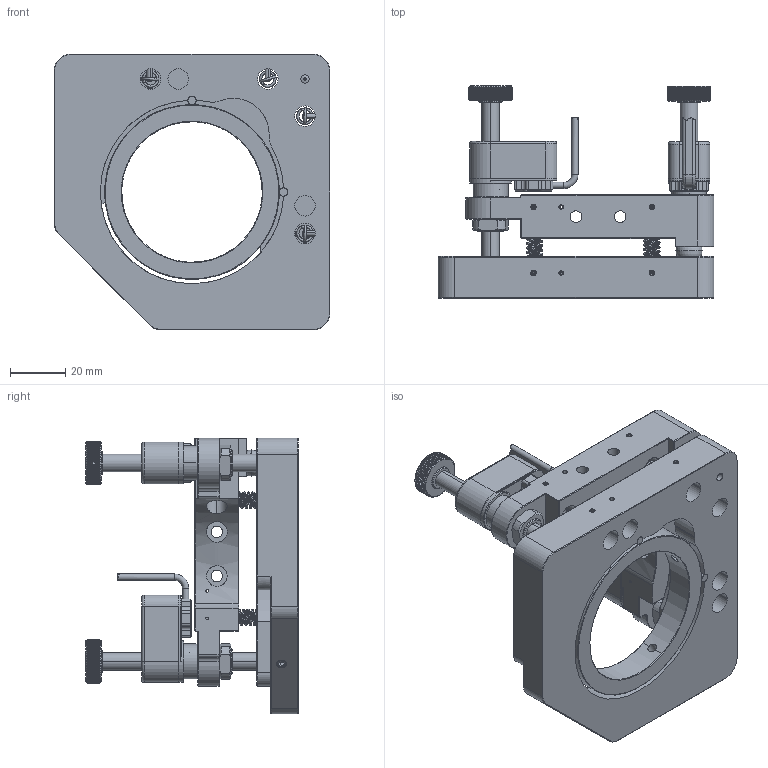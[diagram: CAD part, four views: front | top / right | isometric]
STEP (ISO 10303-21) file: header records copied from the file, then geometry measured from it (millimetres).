
FILE_DESCRIPTION (( 'STEP AP214' ), '1' );
FILE_NAME ('ZT60噩殤蚾饜极樓謂.STEP', '2024-03-21T02:35:16', ( 'daohangxitong.com' ), ( 'daohangxitong.com' ), 'SwSTEP 2.0', 'SolidWorks 2016', '' );
FILE_SCHEMA (( 'AUTOMOTIVE_DESIGN' ));
Length unit declared in the file: millimetre
Products named in the file (26): 零件1^N81压电螺钉简化版24.03.15（230315）; 橡胶柱塞; hexagon socket head cap screws gb_GB_FASTENER_SCREWS_HSHCS M1.6X4-N; 50.8荎渡蛌諉璃; 噩殤樓謂; 复件 圆形钨钢垫片^ZT60镜架装配体加孔; ZT60噩殤蚾饜极樓謂; 带花纹螺母-2（230315）; 机构座（简化版）（230315）; 零件4^N81压电螺钉简化版24.03.15（230315）; N81止动螺母（230315）; N81钢球（230315）; hex socket set screws with flat point gb_GB_FASTENER_SCREWS_HSFP M2X10-N; 外壳（简化版）（230315）; 盄標1ㄗ230315ㄘ; parallel pins hardening steel gb_GB_CONNECTING_PIECE_PIN_DP 2X12; N81锁紧螺母（230315）; 噩殤B湖謂; hex socket set screws with cone point gb_GB_FASTENER_SCREWS_HSCP M2.5X3-N; N81铜螺纹管-1（230315）; N81蹟裝ㄗ230315ㄘ; N81螺杆组成（230315）; 嶺銅; 眻噤9.5詩紩; N81压电螺钉简化版24.03.15（230315）; hexagon socket set screws with cup point gb_GB_SOCKET_SET_TYPE4 M4X8-N
Assembly tree (40 placements, depth 4):
  ZT60噩殤蚾饜极樓謂
    噩殤樓謂
    噩殤B湖謂
    眻噤9.5詩紩
    N81压电螺钉简化版24.03.15（230315）  x2
      机构座（简化版）（230315）
      外壳（简化版）（230315）
      N81螺杆组成（230315）
        N81蹟裝ㄗ230315ㄘ
        N81钢球（230315）
        带花纹螺母-2（230315）
        hex socket set screws with cone point gb_GB_FASTENER_SCREWS_HSCP M2.5X3-N
      N81铜螺纹管-1（230315）
      N81止动螺母（230315）
      N81锁紧螺母（230315）
      hexagon socket head cap screws gb_GB_FASTENER_SCREWS_HSHCS M1.6X4-N
      盄標1ㄗ230315ㄘ
      零件1^N81压电螺钉简化版24.03.15（230315）
    复件 圆形钨钢垫片^ZT60镜架装配体加孔
    parallel pins hardening steel gb_GB_CONNECTING_PIECE_PIN_DP 2X12  x2
    50.8荎渡蛌諉璃
    橡胶柱塞  x2
    嶺銅  x4
    hex socket set screws with flat point gb_GB_FASTENER_SCREWS_HSFP M2X10-N  x8
    hexagon socket set screws with cup point gb_GB_SOCKET_SET_TYPE4 M4X8-N
  零件4^N81压电螺钉简化版24.03.15（230315）
Bounding box: 100 x 76.96 x 100 mm (x, y, z)
Volume: 142641 mm3; surface area: 65826.3 mm2
Topology: 56 solids, 56 shells, 2080 faces, 5203 edges, 3229 vertices
Faces by surface type: plane 819, cylinder 786, cone 377, bspline 62, torus 30, sphere 6
Entity records: 42329 total; most frequent: CARTESIAN_POINT 14659, ORIENTED_EDGE 5450, DIRECTION 5254, EDGE_CURVE 2725, AXIS2_PLACEMENT_3D 2012, VERTEX_POINT 1713, EDGE_LOOP 1240, VECTOR 1230
